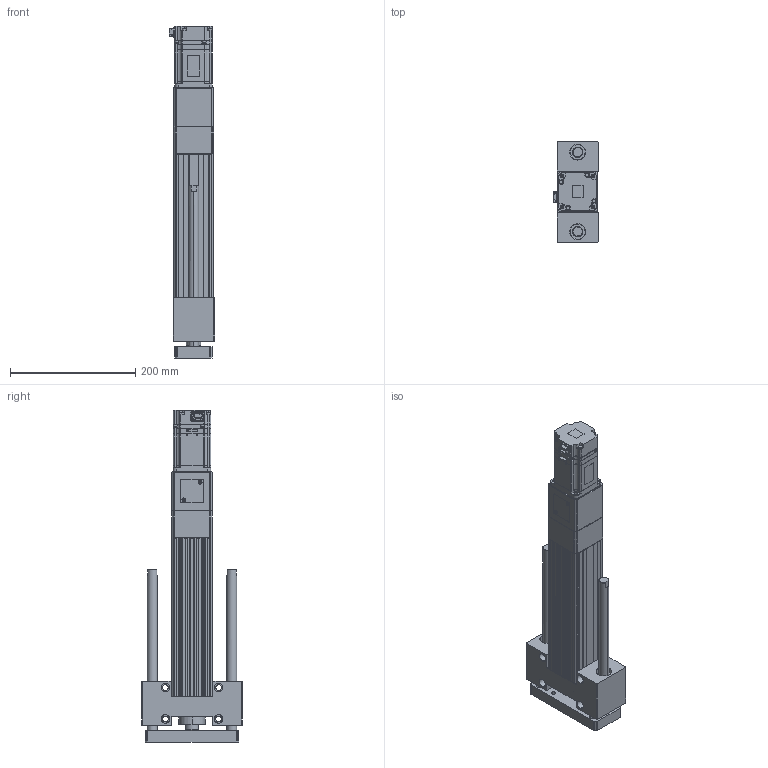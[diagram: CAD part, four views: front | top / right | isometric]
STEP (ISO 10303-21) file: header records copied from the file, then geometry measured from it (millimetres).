
FILE_DESCRIPTION (( 'STEP AP203' ), '1' );
FILE_NAME ('ANS065R-HS150-05(10)(20)-W40.STEP', '2019-03-01T09:10:10', ( 'user' ), ( '' ), 'SwSTEP 2.0', 'SolidWorks 2013', '' );
FILE_SCHEMA (( 'CONFIG_CONTROL_DESIGN' ));
Length unit declared in the file: millimetre
Products named in the file (4): ANS065R HS150 VER2; ANS065 ROD ST150 G; sgmjv_04a_a21; ANS065R-HS150-05(10)(20)-W40
Assembly tree (3 placements, depth 2):
  ANS065R-HS150-05(10)(20)-W40
    ANS065R HS150 VER2
    ANS065 ROD ST150 G
    sgmjv_04a_a21
Bounding box: 72.3 x 160 x 530.6 mm (x, y, z)
Volume: 1960119 mm3; surface area: 387508.9 mm2
Topology: 3 solids, 7 shells, 1236 faces, 3237 edges, 2087 vertices
Faces by surface type: plane 696, cylinder 430, cone 110
Entity records: 38235 total; most frequent: CARTESIAN_POINT 6780, DIRECTION 6559, ORIENTED_EDGE 6418, EDGE_CURVE 3209, VECTOR 2199, LINE 2199, AXIS2_PLACEMENT_3D 2180, VERTEX_POINT 2087
